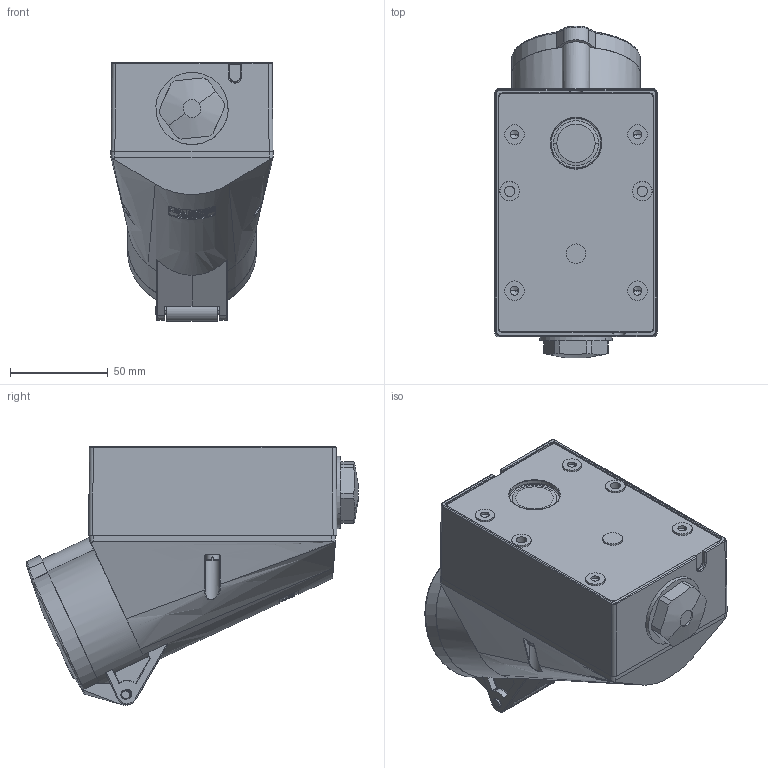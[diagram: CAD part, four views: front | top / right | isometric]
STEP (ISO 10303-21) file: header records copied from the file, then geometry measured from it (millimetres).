
FILE_DESCRIPTION((''),'2;1');
FILE_NAME('1113829_ASM_SW0001','2017-11-30T',('gisse'),('MENNEKES'),'PRO/ENGINEER BY PARAMETRIC TECHNOLOGY CORPORATION, 2015440','PRO/ENGINEER BY PARAMETRIC TECHNOLOGY CORPORATION, 2015440','');
FILE_SCHEMA(('AUTOMOTIVE_DESIGN { 1 0 10303 214 1 1 1 1 }'));
Products named in the file (1): 1113829_ASM_SW0001
Bounding box: 83 x 170.07 x 132.58 mm (x, y, z)
Volume: 944957.9 mm3; surface area: 68531.2 mm2
Topology: 1 solids, 1 shells, 887 faces, 2381 edges, 1533 vertices
Faces by surface type: plane 339, extrusion 215, cylinder 129, bspline 98, cone 67, torus 25, sphere 14
Entity records: 53114 total; most frequent: CARTESIAN_POINT 15218, ORIENTED_EDGE 4738, PRESENTATION_STYLE_ASSIGNMENT 3472, DIRECTION 2970, STYLED_ITEM 2585, CURVE_STYLE 2584, EDGE_CURVE 2369, FILL_AREA_STYLE_COLOUR 1611
